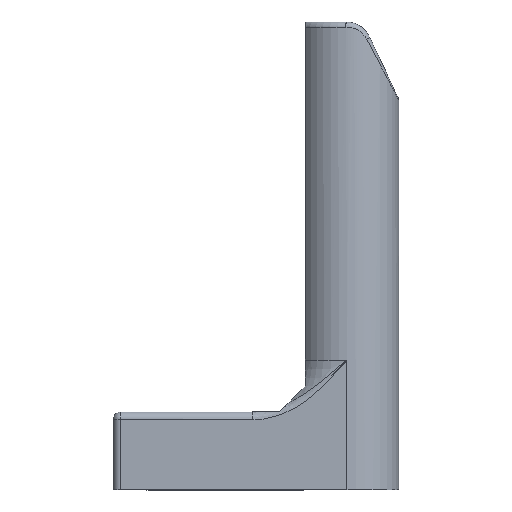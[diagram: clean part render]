
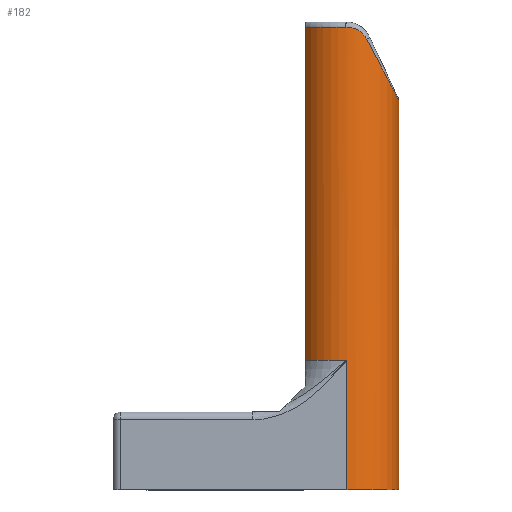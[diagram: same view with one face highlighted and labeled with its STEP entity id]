
A CAD part, front view. The second image highlights one B-rep face of the part: STEP entity #182.
In plain terms, the highlighted cylindrical face has radius 10 mm (diameter 20 mm), a partial arc.
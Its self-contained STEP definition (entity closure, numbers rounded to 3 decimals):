
#75=CARTESIAN_POINT('Control Point',(3.828,-9.238,86.69)) ;
#76=CARTESIAN_POINT('Control Point',(4.735,-8.862,84.94)) ;
#77=CARTESIAN_POINT('Control Point',(6.437,-7.842,81.655)) ;
#78=CARTESIAN_POINT('Control Point',(8.436,-5.636,77.797)) ;
#79=CARTESIAN_POINT('Control Point',(9.709,-2.945,75.34)) ;
#80=CARTESIAN_POINT('Control Point',(10.,-0.982,74.778)) ;
#81=CARTESIAN_POINT('Control Point',(10.,0.,74.778)) ;
#82=CARTESIAN_POINT('Vertex',(10.,0.,74.778)) ;
#84=CARTESIAN_POINT('Vertex',(3.828,-9.238,86.69)) ;
#117=CARTESIAN_POINT('Axis2P3D Location',(0.,0.,90.)) ;
#122=CARTESIAN_POINT('Line Origine',(10.,0.,90.)) ;
#126=CARTESIAN_POINT('Vertex',(10.,0.,0.)) ;
#130=CARTESIAN_POINT('Control Point',(3.828,-9.238,86.69)) ;
#131=CARTESIAN_POINT('Control Point',(3.378,-9.425,87.558)) ;
#132=CARTESIAN_POINT('Control Point',(2.672,-9.687,88.254)) ;
#133=CARTESIAN_POINT('Control Point',(1.778,-9.915,88.752)) ;
#134=CARTESIAN_POINT('Control Point',(0.795,-10.018,89.)) ;
#135=CARTESIAN_POINT('Control Point',(-0.2,-9.998,89.)) ;
#136=CARTESIAN_POINT('Vertex',(-0.2,-9.998,89.)) ;
#139=CARTESIAN_POINT('Axis2P3D Location',(0.,0.,89.)) ;
#143=CARTESIAN_POINT('Vertex',(-8.,-6.,89.)) ;
#146=CARTESIAN_POINT('Line Origine',(-8.,-6.,90.)) ;
#150=CARTESIAN_POINT('Vertex',(-8.,-6.,25.)) ;
#153=CARTESIAN_POINT('Axis2P3D Location',(0.,0.,25.)) ;
#157=CARTESIAN_POINT('Vertex',(0.,-10.,25.)) ;
#160=CARTESIAN_POINT('Line Origine',(0.,-10.,90.)) ;
#164=CARTESIAN_POINT('Vertex',(0.,-10.,0.)) ;
#167=CARTESIAN_POINT('Axis2P3D Location',(0.,0.,0.)) ;
#118=DIRECTION('Axis2P3D Direction',(-0.,0.,-1.)) ;
#119=DIRECTION('Axis2P3D XDirection',(1.,0.,-0.)) ;
#123=DIRECTION('Vector Direction',(0.,0.,-1.)) ;
#140=DIRECTION('Axis2P3D Direction',(-0.,0.,-1.)) ;
#147=DIRECTION('Vector Direction',(0.,0.,-1.)) ;
#154=DIRECTION('Axis2P3D Direction',(-0.,0.,-1.)) ;
#161=DIRECTION('Vector Direction',(0.,0.,-1.)) ;
#168=DIRECTION('Axis2P3D Direction',(-0.,0.,-1.)) ;
#120=AXIS2_PLACEMENT_3D('Cylinder Axis2P3D',#117,#118,#119) ;
#141=AXIS2_PLACEMENT_3D('Circle Axis2P3D',#139,#140,$) ;
#155=AXIS2_PLACEMENT_3D('Circle Axis2P3D',#153,#154,$) ;
#169=AXIS2_PLACEMENT_3D('Circle Axis2P3D',#167,#168,$) ;
#173=ORIENTED_EDGE('',*,*,#128,.F.) ;
#174=ORIENTED_EDGE('',*,*,#86,.T.) ;
#175=ORIENTED_EDGE('',*,*,#138,.T.) ;
#176=ORIENTED_EDGE('',*,*,#145,.T.) ;
#177=ORIENTED_EDGE('',*,*,#152,.F.) ;
#178=ORIENTED_EDGE('',*,*,#159,.T.) ;
#179=ORIENTED_EDGE('',*,*,#166,.T.) ;
#180=ORIENTED_EDGE('',*,*,#171,.F.) ;
#124=VECTOR('Line Direction',#123,1.) ;
#148=VECTOR('Line Direction',#147,1.) ;
#162=VECTOR('Line Direction',#161,1.) ;
#182=ADVANCED_FACE('Importato1',(#181),#121,.T.) ;
#129=B_SPLINE_CURVE_WITH_KNOTS('',5,(#130,#131,#132,#133,#134,#135),.UNSPECIFIED.,.F.,.U.,(6,6),(0.,7.009),.UNSPECIFIED.) ;
#142=CIRCLE('generated circle',#141,10.) ;
#156=CIRCLE('generated circle',#155,10.) ;
#170=CIRCLE('generated circle',#169,10.) ;
#121=CYLINDRICAL_SURFACE('generated cylinder',#120,10.) ;
#86=EDGE_CURVE('',#83,#85,#74,.F.) ;
#128=EDGE_CURVE('',#83,#127,#125,.T.) ;
#138=EDGE_CURVE('',#85,#137,#129,.T.) ;
#145=EDGE_CURVE('',#137,#144,#142,.T.) ;
#152=EDGE_CURVE('',#151,#144,#149,.F.) ;
#159=EDGE_CURVE('',#151,#158,#156,.F.) ;
#166=EDGE_CURVE('',#158,#165,#163,.T.) ;
#171=EDGE_CURVE('',#127,#165,#170,.T.) ;
#172=EDGE_LOOP('',(#173,#174,#175,#176,#177,#178,#179,#180)) ;
#181=FACE_OUTER_BOUND('',#172,.T.) ;
#125=LINE('Line',#122,#124) ;
#149=LINE('Line',#146,#148) ;
#163=LINE('Line',#160,#162) ;
#83=VERTEX_POINT('',#82) ;
#85=VERTEX_POINT('',#84) ;
#127=VERTEX_POINT('',#126) ;
#137=VERTEX_POINT('',#136) ;
#144=VERTEX_POINT('',#143) ;
#151=VERTEX_POINT('',#150) ;
#158=VERTEX_POINT('',#157) ;
#165=VERTEX_POINT('',#164) ;
#74=(BOUNDED_CURVE()B_SPLINE_CURVE(3,(#75,#76,#77,#78,#79,#80,#81),.UNSPECIFIED.,.F.,.U.)B_SPLINE_CURVE_WITH_KNOTS((4,1,1,1,4),(5.105,9.383,13.66,17.937,22.215),.UNSPECIFIED.)CURVE()GEOMETRIC_REPRESENTATION_ITEM()RATIONAL_B_SPLINE_CURVE((1.,1.,1.,1.,1.,1.,1.))REPRESENTATION_ITEM('')) ;
